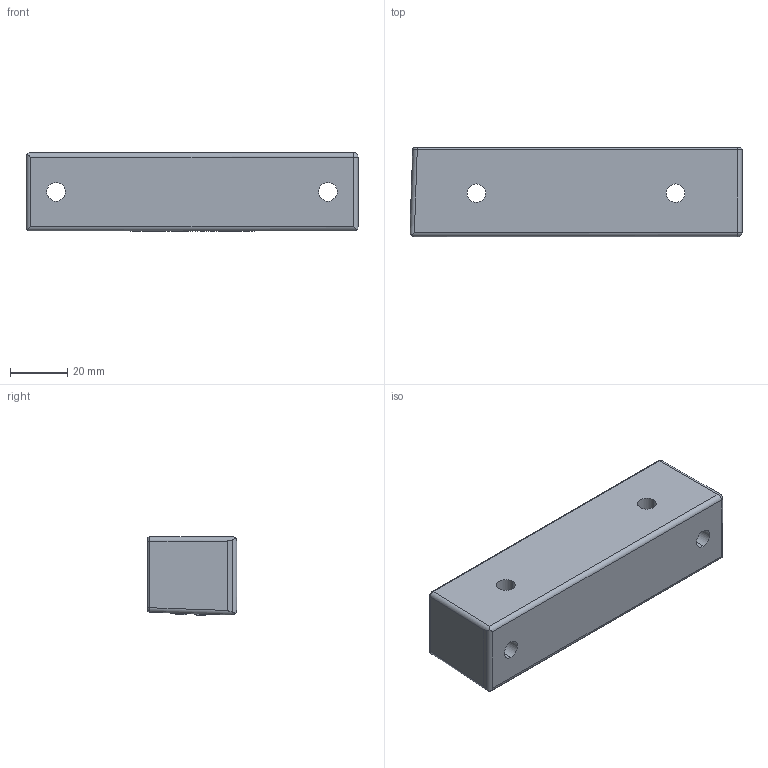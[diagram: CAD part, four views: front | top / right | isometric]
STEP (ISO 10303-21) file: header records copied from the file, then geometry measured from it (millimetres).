
FILE_DESCRIPTION (( 'STEP AP203' ), '1' );
FILE_NAME ('AC2100.STEP', '2020-01-08T14:43:08', ( '' ), ( '' ), 'SwSTEP 2.0', 'SolidWorks 2018', '' );
FILE_SCHEMA (( 'CONFIG_CONTROL_DESIGN' ));
Length unit declared in the file: inch
Products named in the file (1): AC2100
Bounding box: 116.33 x 31.37 x 27.54 mm (x, y, z)
Volume: 91670 mm3; surface area: 31971 mm2
Topology: 4 solids, 4 shells, 355 faces, 932 edges, 617 vertices
Faces by surface type: plane 234, bspline 67, cylinder 52, sphere 1, torus 1
Entity records: 14542 total; most frequent: CARTESIAN_POINT 6110, ORIENTED_EDGE 1862, DIRECTION 1444, EDGE_CURVE 931, VECTOR 686, LINE 686, VERTEX_POINT 617, EDGE_LOOP 406
